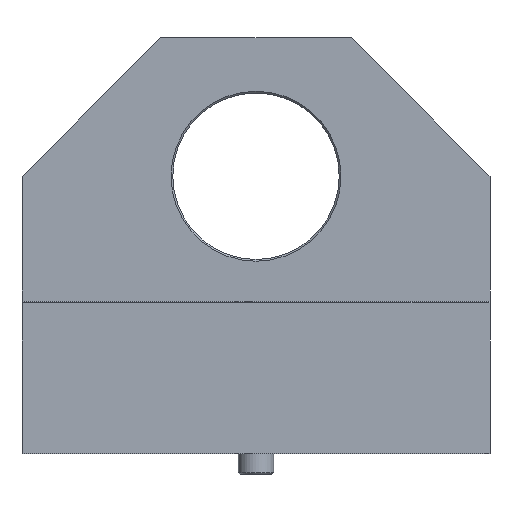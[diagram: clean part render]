
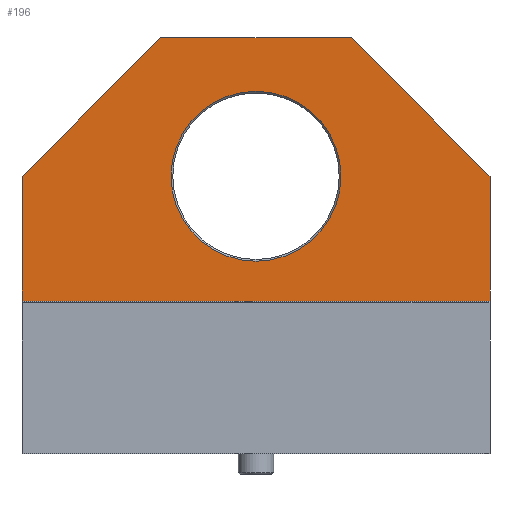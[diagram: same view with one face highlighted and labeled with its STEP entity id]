
A CAD part, front view. The second image highlights one B-rep face of the part: STEP entity #196.
In plain terms, the highlighted planar face has unit normal (0, -1, 0).
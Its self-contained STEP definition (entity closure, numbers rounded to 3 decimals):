
#78=PLANE('',#980);
#102=LINE('',#1412,#148);
#103=LINE('',#1415,#149);
#104=LINE('',#1417,#150);
#105=LINE('',#1419,#151);
#106=LINE('',#1421,#152);
#107=LINE('',#1423,#153);
#148=VECTOR('',#1115,1.);
#149=VECTOR('',#1116,1.);
#150=VECTOR('',#1117,1.);
#151=VECTOR('',#1118,1.);
#152=VECTOR('',#1119,1.);
#153=VECTOR('',#1120,1.);
#196=ADVANCED_FACE('',(#284,#285),#78,.F.);
#284=FACE_BOUND('',#392,.T.);
#285=FACE_BOUND('',#393,.T.);
#392=EDGE_LOOP('',(#514));
#393=EDGE_LOOP('',(#515,#516,#517,#518,#519,#520));
#514=ORIENTED_EDGE('',*,*,#812,.T.);
#515=ORIENTED_EDGE('',*,*,#813,.T.);
#516=ORIENTED_EDGE('',*,*,#814,.T.);
#517=ORIENTED_EDGE('',*,*,#815,.F.);
#518=ORIENTED_EDGE('',*,*,#816,.T.);
#519=ORIENTED_EDGE('',*,*,#817,.T.);
#520=ORIENTED_EDGE('',*,*,#818,.T.);
#724=VERTEX_POINT('',#1411);
#725=VERTEX_POINT('',#1413);
#726=VERTEX_POINT('',#1414);
#727=VERTEX_POINT('',#1416);
#728=VERTEX_POINT('',#1418);
#729=VERTEX_POINT('',#1420);
#730=VERTEX_POINT('',#1422);
#812=EDGE_CURVE('',#724,#724,#917,.T.);
#813=EDGE_CURVE('',#725,#726,#102,.T.);
#814=EDGE_CURVE('',#726,#727,#103,.T.);
#815=EDGE_CURVE('',#728,#727,#104,.T.);
#816=EDGE_CURVE('',#728,#729,#105,.T.);
#817=EDGE_CURVE('',#729,#730,#106,.T.);
#818=EDGE_CURVE('',#730,#725,#107,.T.);
#917=CIRCLE('',#979,24.5);
#979=AXIS2_PLACEMENT_3D('',#1410,#1113,#1114);
#980=AXIS2_PLACEMENT_3D('',#1424,#1121,#1122);
#1113=DIRECTION('',(0.,1.,0.));
#1114=DIRECTION('',(0.,0.,1.));
#1115=DIRECTION('',(0.,0.,-1.));
#1116=DIRECTION('',(1.,0.,0.));
#1117=DIRECTION('',(0.,0.,-1.));
#1118=DIRECTION('',(-0.707,0.,0.707));
#1119=DIRECTION('',(-1.,0.,0.));
#1120=DIRECTION('',(-0.707,0.,-0.707));
#1121=DIRECTION('',(0.,1.,0.));
#1122=DIRECTION('',(0.,0.,1.));
#1410=CARTESIAN_POINT('',(0.,-22.5,80.));
#1411=CARTESIAN_POINT('',(0.,-22.5,104.5));
#1412=CARTESIAN_POINT('',(-67.5,-22.5,120.));
#1413=CARTESIAN_POINT('',(-67.5,-22.5,80.));
#1414=CARTESIAN_POINT('',(-67.5,-22.5,44.));
#1415=CARTESIAN_POINT('',(67.5,-22.5,44.));
#1416=CARTESIAN_POINT('',(67.5,-22.5,44.));
#1417=CARTESIAN_POINT('',(67.5,-22.5,120.));
#1418=CARTESIAN_POINT('',(67.5,-22.5,80.));
#1419=CARTESIAN_POINT('',(67.5,-22.5,80.));
#1420=CARTESIAN_POINT('',(27.5,-22.5,120.));
#1421=CARTESIAN_POINT('',(67.5,-22.5,120.));
#1422=CARTESIAN_POINT('',(-27.5,-22.5,120.));
#1423=CARTESIAN_POINT('',(-27.5,-22.5,120.));
#1424=CARTESIAN_POINT('',(67.5,-22.5,120.));
